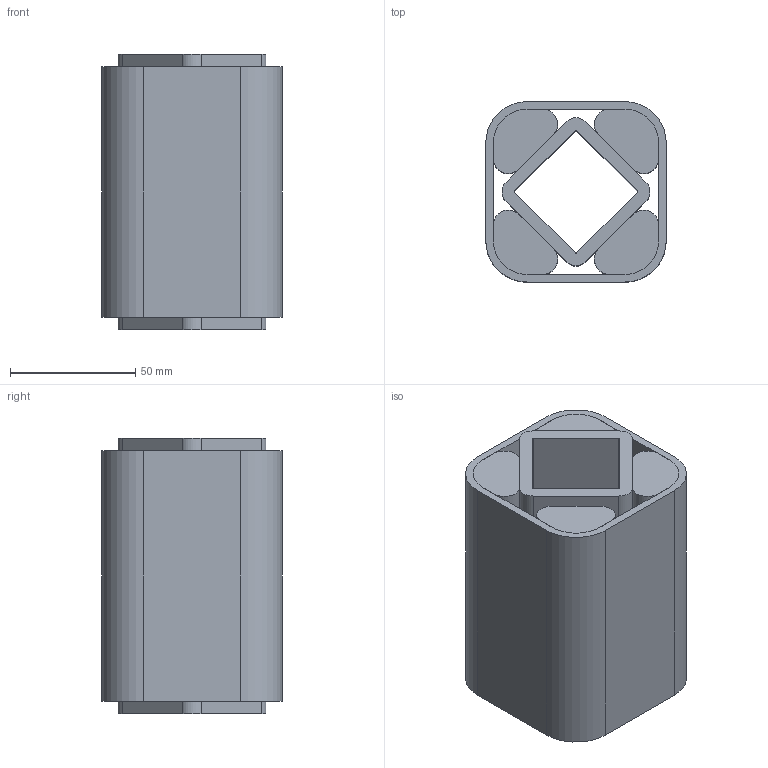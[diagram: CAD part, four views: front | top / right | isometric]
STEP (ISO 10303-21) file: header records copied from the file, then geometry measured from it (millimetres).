
FILE_DESCRIPTION((''),'2;1');
FILE_NAME('D:\ROSTA\Gummifederelemente\3D\DR-S45x100_01021017.stp','2005-02-02T07:14:41',('Administrator'),(''),'Autodesk Inventor 8','Autodesk Inventor 8','');
FILE_SCHEMA(('AUTOMOTIVE_DESIGN { 1 0 10303 214 1 1 1 1 }'));
Length unit declared in the file: millimetre
Products named in the file (4): Baugruppe2; 4.4.3730-005; 4.4.3730-006; 4.4.3730-007
Assembly tree (6 placements, depth 2):
  Baugruppe2
    4.4.3730-005
    4.4.3730-006
    4.4.3730-007  x4
Bounding box: 72 x 72 x 110 mm (x, y, z)
Volume: 342654.1 mm3; surface area: 123309.7 mm2
Topology: 6 solids, 6 shells, 68 faces, 168 edges, 112 vertices
Faces by surface type: plane 40, cylinder 28
Entity records: 1491 total; most frequent: DIRECTION 260, CARTESIAN_POINT 244, ORIENTED_EDGE 228, EDGE_CURVE 114, AXIS2_PLACEMENT_3D 92, VERTEX_POINT 76, VECTOR 76, LINE 76
